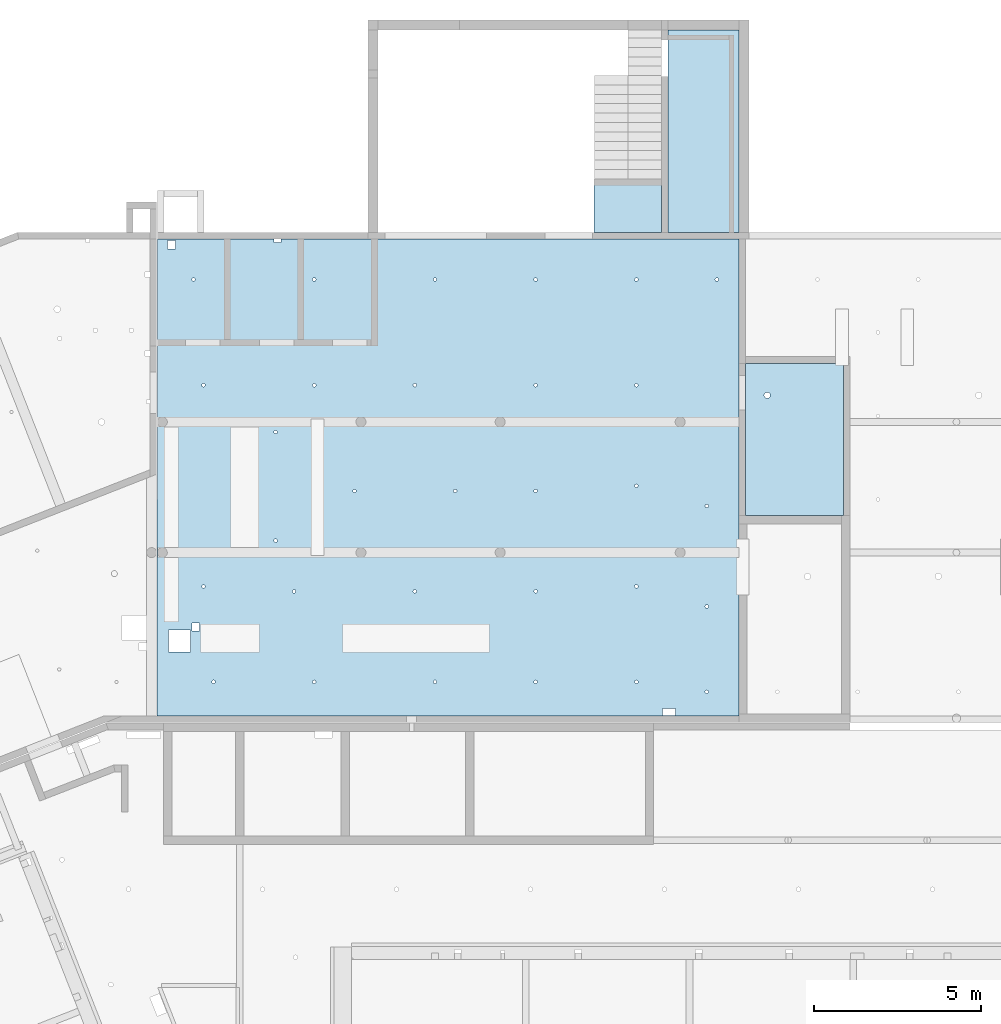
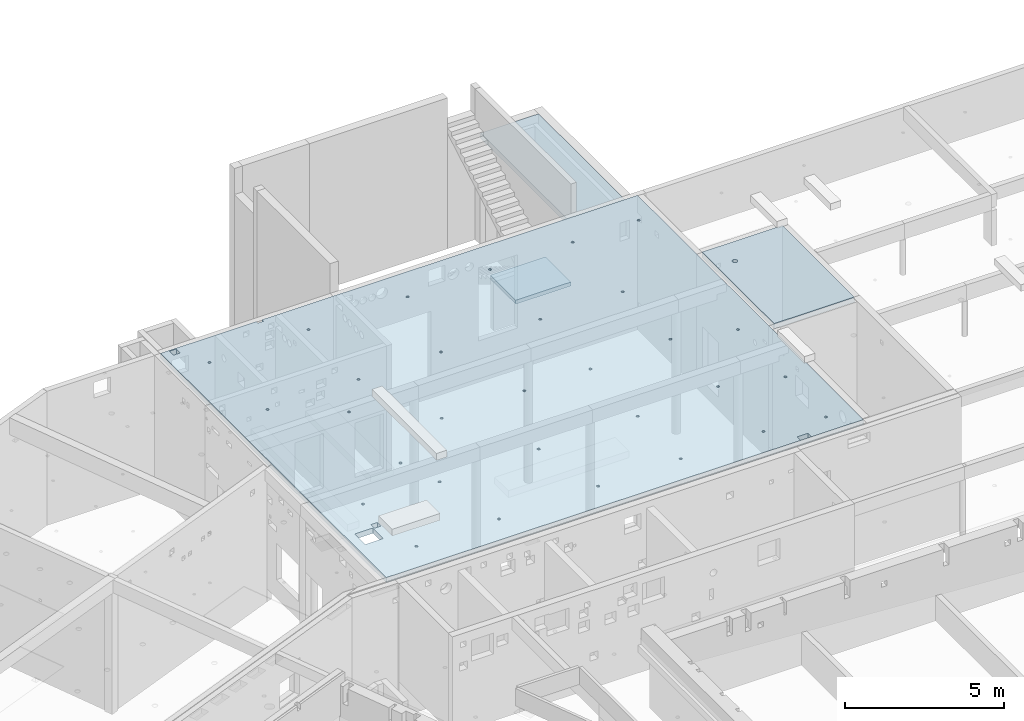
# One storey, part 11 of 28: 4 slabs, 36 openings.
"""IFC2X3 building model written with IfcOpenShell, lengths in metres."""

from ifc_helpers import new_model, entity, si_unit, converted_unit, direction, frame, frame_2d, origin, origin_with_axes, origin_2d_with_axis, place, context, subcontext, project, spatial, polyline, rectangle, circle, outline, extrude, material, element, save


model = new_model("IFC2X3")

# Units and contexts
model_context = context("Model", 3, precision=1e-05, world=origin(), true_north=direction((-0.407059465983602, -0.913401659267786)))
body_context = subcontext(model_context, "Body", "Model", "MODEL_VIEW")
ifc_project = project(units=[si_unit("LENGTHUNIT", "METRE"), si_unit("AREAUNIT", "SQUARE_METRE"), si_unit("VOLUMEUNIT", "CUBIC_METRE"), si_unit("MASSUNIT", "GRAM", prefix="KILO"), converted_unit("PLANEANGLEUNIT", "DEGREE", entity("IfcPlaneAngleMeasure", 0.0174532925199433), si_unit("PLANEANGLEUNIT", "RADIAN"), dimensions=[0, 0, 0, 0, 0, 0, 0])], contexts=[model_context])

# Site, buildings, storey
site_placement = place(None, origin())
site = spatial("IfcSite", under=ifc_project, at=site_placement, Name="Site", CompositionType="ELEMENT")
building_1_placement = place(site_placement, origin())
building_1 = spatial("IfcBuilding", under=site, at=building_1_placement, Name="Site", CompositionType="COMPLEX")
building_2_placement = place(building_1_placement, origin())
building_2 = spatial("IfcBuilding", under=building_1, at=building_2_placement, Name="Bâtiments", CompositionType="ELEMENT")
storey_placement = place(building_2_placement, frame((0.0, 0.0, -5.3)))
storey = spatial("IfcBuildingStorey", under=building_2, at=storey_placement, Name="SOUS-SOL", CompositionType="ELEMENT", Elevation=-5.3)

# Slab
ifc_material_1 = material(Name="Dalle_BA")
slab_1_placement = place(storey_placement, frame((43.1296416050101, 9.41038730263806, 4.33)))
element("IfcSlab", 1, at=slab_1_placement, inside=storey, material=ifc_material_1, PredefinedType="FLOOR", context=body_context, shape_type="SweptSolid", body=[
    extrude(rectangle(XDim=6.03989682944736, YDim=2.11300244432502, at=frame_2d((1.05650122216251, -3.01994841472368), x_axis=(0.0, -1.0))), frame((0.0, 6.03989682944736, 0.0), z_axis=(0.0, 0.0, 1.0), x_axis=(1.0, 0.0, 0.0)), (0.0, 0.0, 1.0), 0.2),
])

# Slab, opening
ifc_material_2 = material(Name="Dalle_BA")
slab_2_placement = place(storey_placement, frame((45.4426440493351, 0.953810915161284, 4.98)))
slab_2 = element("IfcSlab", 2, at=slab_2_placement, inside=storey, material=ifc_material_2, PredefinedType="FLOOR", context=body_context, shape_type="SweptSolid", body=[
    extrude(rectangle(XDim=2.92205293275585, YDim=4.54465431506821, at=frame_2d((1.46102646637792, 2.27232715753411), x_axis=(1.0, -3.50158454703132e-16))), frame((7.27595761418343e-15, 1.02318153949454e-15, 0.0), z_axis=(0.0, 0.0, 1.0), x_axis=(1.0, 0.0, 0.0)), (0.0, 0.0, 1.0), 0.2),
])
opening_1_placement = place(slab_2_placement, frame((0.557089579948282, 3.50394477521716, 0.0)))
element("IfcOpeningElement", 3, at=opening_1_placement, cuts=slab_2, Name="Trémie dans dalle", ObjectType="Opening", context=body_context, shape_type="SweptSolid", body=[
    extrude(circle(Radius=0.0900000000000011, at=frame_2d((-1.45519152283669e-14, 9.09494701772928e-16), x_axis=(1.0, 0.0))), frame((0.0896285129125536, 0.089628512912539, 0.0), z_axis=(0.0, 0.0, 1.0), x_axis=(1.0, 0.0, 0.0)), (0.0, 0.0, 1.0), 0.2),
])

# Slab
ifc_material_3 = material(Name="Dalle_BA")
slab_3_placement = place(storey_placement, frame((40.9218887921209, 9.41038730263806, 2.38)))
element("IfcSlab", 4, at=slab_3_placement, inside=storey, material=ifc_material_3, PredefinedType="FLOOR", context=body_context, shape_type="SweptSolid", body=[
    extrude(rectangle(XDim=1.60006372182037, YDim=2.00775281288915, at=frame_2d((1.00387640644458, -0.800031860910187), x_axis=(0.0, -1.0))), frame((0.0, 1.60006372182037, 0.0), z_axis=(0.0, 0.0, 1.0), x_axis=(1.0, 0.0, 0.0)), (0.0, 0.0, 1.0), 0.15),
])

# Slab, openings
ifc_material_4 = material(Name="Béton")
slab_4_placement = place(storey_placement, frame((27.8816796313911, -5.01893030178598, 4.98)))
slab_4 = element("IfcSlab", 5, at=slab_4_placement, inside=storey, material=ifc_material_4, PredefinedType="FLOOR", context=body_context, shape_type="SweptSolid", body=[
    extrude(outline(polyline([(0.000964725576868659, 14.229317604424), (0.0, 3.74470359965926e-05), (17.3609648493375, 0.0), (17.360964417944, 14.229317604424), (0.000964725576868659, 14.229317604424)])), origin_with_axes(), (0.0, 0.0, 1.0), 0.2),
])
opening_2_placement = place(slab_4_placement, frame((1.63059088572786, 0.961528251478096, 0.0)))
element("IfcOpeningElement", 6, at=opening_2_placement, cuts=slab_4, Name="Trémie dans dalle", ObjectType="Opening", context=body_context, shape_type="SweptSolid", body=[
    extrude(circle(Radius=0.05, at=frame_2d((0.0, 9.09494701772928e-16), x_axis=(1.0, 0.0))), frame((0.0497936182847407, 0.0497936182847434, 0.0), z_axis=(0.0, 0.0, 1.0), x_axis=(1.0, 0.0, 0.0)), (0.0, 0.0, 1.0), 0.2),
])
opening_3_placement = place(slab_4_placement, frame((4.63559089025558, 0.961528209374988, 0.0)))
element("IfcOpeningElement", 7, at=opening_3_placement, cuts=slab_4, Name="Trémie dans dalle", ObjectType="Opening", context=body_context, shape_type="SweptSolid", body=[
    extrude(circle(Radius=0.05, at=frame_2d((-3.63797880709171e-15, 0.0), x_axis=(1.0, 0.0))), frame((0.0497936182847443, 0.0497936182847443, 0.0), z_axis=(0.0, 0.0, 1.0), x_axis=(1.0, 0.0, 0.0)), (0.0, 0.0, 1.0), 0.2),
])
opening_4_placement = place(slab_4_placement, frame((8.24159089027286, 0.961528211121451, 0.0)))
element("IfcOpeningElement", 8, at=opening_4_placement, cuts=slab_4, Name="Trémie dans dalle", ObjectType="Opening", context=body_context, shape_type="SweptSolid", body=[
    extrude(circle(Radius=0.05, at=origin_2d_with_axis()), frame((0.0497936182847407, 0.0497936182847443, 0.0), z_axis=(0.0, 0.0, 1.0), x_axis=(1.0, 0.0, 0.0)), (0.0, 0.0, 1.0), 0.2),
])
opening_5_placement = place(slab_4_placement, frame((11.2465908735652, 0.961528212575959, 0.0)))
element("IfcOpeningElement", 9, at=opening_5_placement, cuts=slab_4, Name="Trémie dans dalle", ObjectType="Opening", context=body_context, shape_type="SweptSolid", body=[
    extrude(circle(Radius=0.05, at=frame_2d((-7.27595761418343e-15, -1.36424205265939e-15), x_axis=(1.0, 0.0))), frame((0.0497936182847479, 0.0497936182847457, 0.0), z_axis=(0.0, 0.0, 1.0), x_axis=(1.0, 0.0, 0.0)), (0.0, 0.0, 1.0), 0.2),
])
opening_6_placement = place(slab_4_placement, frame((14.2515908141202, 0.961528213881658, 0.0)))
element("IfcOpeningElement", 10, at=opening_6_placement, cuts=slab_4, Name="Trémie dans dalle", ObjectType="Opening", context=body_context, shape_type="SweptSolid", body=[
    extrude(circle(Radius=0.05, at=origin_2d_with_axis()), frame((0.0497936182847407, 0.0497936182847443, 0.0), z_axis=(0.0, 0.0, 1.0), x_axis=(1.0, 0.0, 0.0)), (0.0, 0.0, 1.0), 0.2),
])
opening_7_placement = place(slab_4_placement, frame((16.3549708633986, 0.663520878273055, 0.0)))
element("IfcOpeningElement", 11, at=opening_7_placement, cuts=slab_4, Name="Trémie dans dalle", ObjectType="Opening", context=body_context, shape_type="SweptSolid", body=[
    extrude(circle(Radius=0.05, at=frame_2d((1.45519152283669e-14, 9.09494701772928e-16), x_axis=(1.0, 0.0))), frame((0.0497936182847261, 0.0497936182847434, 0.0), z_axis=(0.0, 0.0, 1.0), x_axis=(1.0, 0.0, 0.0)), (0.0, 0.0, 1.0), 0.2),
])
opening_8_placement = place(slab_4_placement, frame((16.3549709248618, 3.2112773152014, 0.0)))
element("IfcOpeningElement", 12, at=opening_8_placement, cuts=slab_4, Name="Trémie dans dalle", ObjectType="Opening", context=body_context, shape_type="SweptSolid", body=[
    extrude(circle(Radius=0.05, at=frame_2d((-7.27595761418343e-15, -4.54747350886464e-16), x_axis=(1.0, 0.0))), frame((0.0497936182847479, 0.0497936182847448, 0.0), z_axis=(0.0, 0.0, 1.0), x_axis=(1.0, 0.0, 0.0)), (0.0, 0.0, 1.0), 0.2),
])
opening_9_placement = place(slab_4_placement, frame((16.3549708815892, 6.21152087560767, 0.0)))
element("IfcOpeningElement", 13, at=opening_9_placement, cuts=slab_4, Name="Trémie dans dalle", ObjectType="Opening", context=body_context, shape_type="SweptSolid", body=[
    extrude(circle(Radius=0.05, at=frame_2d((-7.27595761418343e-15, 4.54747350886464e-16), x_axis=(1.0, 0.0))), frame((0.0497936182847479, 0.0497936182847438, 0.0), z_axis=(0.0, 0.0, 1.0), x_axis=(1.0, 0.0, 0.0)), (0.0, 0.0, 1.0), 0.2),
])
opening_10_placement = place(slab_4_placement, frame((14.2515152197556, 3.81151284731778, 0.0)))
element("IfcOpeningElement", 14, at=opening_10_placement, cuts=slab_4, Name="Trémie dans dalle", ObjectType="Opening", context=body_context, shape_type="SweptSolid", body=[
    extrude(circle(Radius=0.05, at=frame_2d((-7.27595761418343e-15, 0.0), x_axis=(1.0, 0.0))), frame((0.0497936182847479, 0.0497936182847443, 0.0), z_axis=(0.0, 0.0, 1.0), x_axis=(1.0, 0.0, 0.0)), (0.0, 0.0, 1.0), 0.2),
])
opening_11_placement = place(slab_4_placement, frame((11.2465799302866, 3.66452820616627, 0.0)))
element("IfcOpeningElement", 15, at=opening_11_placement, cuts=slab_4, Name="Trémie dans dalle", ObjectType="Opening", context=body_context, shape_type="SweptSolid", body=[
    extrude(circle(Radius=0.05, at=frame_2d((7.27595761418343e-15, 0.0), x_axis=(1.0, 0.0))), frame((0.0497936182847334, 0.0497936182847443, 0.0), z_axis=(0.0, 0.0, 1.0), x_axis=(1.0, 0.0, 0.0)), (0.0, 0.0, 1.0), 0.2),
])
opening_12_placement = place(slab_4_placement, frame((7.64057992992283, 3.66452877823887, 0.0)))
element("IfcOpeningElement", 16, at=opening_12_placement, cuts=slab_4, Name="Trémie dans dalle", ObjectType="Opening", context=body_context, shape_type="SweptSolid", body=[
    extrude(circle(Radius=0.05, at=frame_2d((0.0, -4.54747350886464e-16), x_axis=(1.0, 0.0))), frame((0.0497936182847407, 0.0497936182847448, 0.0), z_axis=(0.0, 0.0, 1.0), x_axis=(1.0, 0.0, 0.0)), (0.0, 0.0, 1.0), 0.2),
])
opening_13_placement = place(slab_4_placement, frame((4.03457993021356, 3.66452922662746, 0.0)))
element("IfcOpeningElement", 17, at=opening_13_placement, cuts=slab_4, Name="Trémie dans dalle", ObjectType="Opening", context=body_context, shape_type="SweptSolid", body=[
    extrude(circle(Radius=0.05, at=frame_2d((-1.09139364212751e-14, 0.0), x_axis=(1.0, 0.0))), frame((0.0497936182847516, 0.0497936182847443, 0.0), z_axis=(0.0, 0.0, 1.0), x_axis=(1.0, 0.0, 0.0)), (0.0, 0.0, 1.0), 0.2),
])
opening_14_placement = place(slab_4_placement, frame((1.33016655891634, 3.81152821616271, 0.0)))
element("IfcOpeningElement", 18, at=opening_14_placement, cuts=slab_4, Name="Trémie dans dalle", ObjectType="Opening", context=body_context, shape_type="SweptSolid", body=[
    extrude(circle(Radius=0.05, at=frame_2d((7.27595761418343e-15, 0.0), x_axis=(1.0, 0.0))), frame((0.0497936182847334, 0.0497936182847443, 0.0), z_axis=(0.0, 0.0, 1.0), x_axis=(1.0, 0.0, 0.0)), (0.0, 0.0, 1.0), 0.2),
])
opening_15_placement = place(slab_4_placement, frame((3.48404348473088, 5.17723359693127, 0.0)))
element("IfcOpeningElement", 19, at=opening_15_placement, cuts=slab_4, Name="Trémie dans dalle", ObjectType="Opening", context=body_context, shape_type="SweptSolid", body=[
    extrude(circle(Radius=0.05, at=frame_2d((1.09139364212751e-14, 0.0), x_axis=(1.0, 0.0))), frame((0.0497936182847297, 0.0497936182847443, 0.0), z_axis=(0.0, 0.0, 1.0), x_axis=(1.0, 0.0, 0.0)), (0.0, 0.0, 1.0), 0.2),
])
opening_16_placement = place(slab_4_placement, frame((3.48404342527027, 8.41957968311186, 0.0)))
element("IfcOpeningElement", 20, at=opening_16_placement, cuts=slab_4, Name="Trémie dans dalle", ObjectType="Opening", context=body_context, shape_type="SweptSolid", body=[
    extrude(circle(Radius=0.05, at=frame_2d((-7.27595761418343e-15, 1.36424205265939e-15), x_axis=(1.0, 0.0))), frame((0.0497936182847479, 0.0497936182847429, 0.0), z_axis=(0.0, 0.0, 1.0), x_axis=(1.0, 0.0, 0.0)), (0.0, 0.0, 1.0), 0.2),
])
opening_17_placement = place(slab_4_placement, frame((5.83759088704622, 6.66031036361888, 0.0)))
element("IfcOpeningElement", 21, at=opening_17_placement, cuts=slab_4, Name="Trémie dans dalle", ObjectType="Opening", context=body_context, shape_type="SweptSolid", body=[
    extrude(circle(Radius=0.05, at=frame_2d((-1.45519152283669e-14, -4.54747350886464e-16), x_axis=(1.0, 0.0))), frame((0.0497936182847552, 0.0497936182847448, 0.0), z_axis=(0.0, 0.0, 1.0), x_axis=(1.0, 0.0, 0.0)), (0.0, 0.0, 1.0), 0.2),
])
opening_18_placement = place(slab_4_placement, frame((8.84259087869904, 6.66031037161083, 0.0)))
element("IfcOpeningElement", 22, at=opening_18_placement, cuts=slab_4, Name="Trémie dans dalle", ObjectType="Opening", context=body_context, shape_type="SweptSolid", body=[
    extrude(circle(Radius=0.05, at=frame_2d((7.27595761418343e-15, -4.54747350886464e-16), x_axis=(1.0, 0.0))), frame((0.0497936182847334, 0.0497936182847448, 0.0), z_axis=(0.0, 0.0, 1.0), x_axis=(1.0, 0.0, 0.0)), (0.0, 0.0, 1.0), 0.2),
])
opening_19_placement = place(slab_4_placement, frame((11.2465908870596, 6.66031039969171, 0.0)))
element("IfcOpeningElement", 23, at=opening_19_placement, cuts=slab_4, Name="Trémie dans dalle", ObjectType="Opening", context=body_context, shape_type="SweptSolid", body=[
    extrude(circle(Radius=0.05, at=frame_2d((-7.27595761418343e-15, -4.54747350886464e-16), x_axis=(1.0, 0.0))), frame((0.0497936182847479, 0.0497936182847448, 0.0), z_axis=(0.0, 0.0, 1.0), x_axis=(1.0, 0.0, 0.0)), (0.0, 0.0, 1.0), 0.2),
])
opening_20_placement = place(slab_4_placement, frame((14.2515308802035, 6.81252822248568, 0.0)))
element("IfcOpeningElement", 24, at=opening_20_placement, cuts=slab_4, Name="Trémie dans dalle", ObjectType="Opening", context=body_context, shape_type="SweptSolid", body=[
    extrude(circle(Radius=0.05, at=frame_2d((7.27595761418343e-15, 0.0), x_axis=(1.0, 0.0))), frame((0.0497936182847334, 0.0497936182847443, 0.0), z_axis=(0.0, 0.0, 1.0), x_axis=(1.0, 0.0, 0.0)), (0.0, 0.0, 1.0), 0.2),
])
opening_21_placement = place(slab_4_placement, frame((7.64043929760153, 9.81953605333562, 0.0)))
element("IfcOpeningElement", 25, at=opening_21_placement, cuts=slab_4, Name="Trémie dans dalle", ObjectType="Opening", context=body_context, shape_type="SweptSolid", body=[
    extrude(circle(Radius=0.05, at=frame_2d((7.27595761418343e-15, 0.0), x_axis=(1.0, 0.0))), frame((0.0497936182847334, 0.0497936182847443, 0.0), z_axis=(0.0, 0.0, 1.0), x_axis=(1.0, 0.0, 0.0)), (0.0, 0.0, 1.0), 0.2),
])
opening_22_placement = place(slab_4_placement, frame((1.33013295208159, 9.81953661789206, 0.0)))
element("IfcOpeningElement", 26, at=opening_22_placement, cuts=slab_4, Name="Trémie dans dalle", ObjectType="Opening", context=body_context, shape_type="SweptSolid", body=[
    extrude(circle(Radius=0.05, at=frame_2d((7.27595761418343e-15, -1.81898940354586e-15), x_axis=(1.0, 0.0))), frame((0.0497936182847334, 0.0497936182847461, 0.0), z_axis=(0.0, 0.0, 1.0), x_axis=(1.0, 0.0, 0.0)), (0.0, 0.0, 1.0), 0.2),
])
opening_23_placement = place(slab_4_placement, frame((14.2515294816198, 9.81852822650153, 0.0)))
element("IfcOpeningElement", 27, at=opening_23_placement, cuts=slab_4, Name="Trémie dans dalle", ObjectType="Opening", context=body_context, shape_type="SweptSolid", body=[
    extrude(circle(Radius=0.05, at=frame_2d((-7.27595761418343e-15, -1.81898940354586e-15), x_axis=(1.0, 0.0))), frame((0.0497936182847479, 0.0497936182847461, 0.0), z_axis=(0.0, 0.0, 1.0), x_axis=(1.0, 0.0, 0.0)), (0.0, 0.0, 1.0), 0.2),
])
opening_24_placement = place(slab_4_placement, frame((11.246529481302, 9.81853066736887, 0.0)))
element("IfcOpeningElement", 28, at=opening_24_placement, cuts=slab_4, Name="Trémie dans dalle", ObjectType="Opening", context=body_context, shape_type="SweptSolid", body=[
    extrude(circle(Radius=0.05, at=frame_2d((0.0, 1.81898940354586e-15), x_axis=(1.0, 0.0))), frame((0.0497936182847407, 0.0497936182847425, 0.0), z_axis=(0.0, 0.0, 1.0), x_axis=(1.0, 0.0, 0.0)), (0.0, 0.0, 1.0), 0.2),
])
opening_25_placement = place(slab_4_placement, frame((4.63555482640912, 9.81852949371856, 0.0)))
element("IfcOpeningElement", 29, at=opening_25_placement, cuts=slab_4, Name="Trémie dans dalle", ObjectType="Opening", context=body_context, shape_type="SweptSolid", body=[
    extrude(circle(Radius=0.05, at=frame_2d((-1.09139364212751e-14, 0.0), x_axis=(1.0, 0.0))), frame((0.0497936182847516, 0.0497936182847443, 0.0), z_axis=(0.0, 0.0, 1.0), x_axis=(1.0, 0.0, 0.0)), (0.0, 0.0, 1.0), 0.2),
])
opening_26_placement = place(slab_4_placement, frame((1.02973317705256, 12.9725275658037, 0.0)))
element("IfcOpeningElement", 30, at=opening_26_placement, cuts=slab_4, Name="Trémie dans dalle", ObjectType="Opening", context=body_context, shape_type="SweptSolid", body=[
    extrude(circle(Radius=0.05, at=frame_2d((0.0, -1.81898940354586e-15), x_axis=(1.0, 0.0))), frame((0.0497936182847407, 0.0497936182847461, 0.0), z_axis=(0.0, 0.0, 1.0), x_axis=(1.0, 0.0, 0.0)), (0.0, 0.0, 1.0), 0.2),
])
opening_27_placement = place(slab_4_placement, frame((4.63555605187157, 12.972525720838, 0.0)))
element("IfcOpeningElement", 31, at=opening_27_placement, cuts=slab_4, Name="Trémie dans dalle", ObjectType="Opening", context=body_context, shape_type="SweptSolid", body=[
    extrude(circle(Radius=0.05, at=frame_2d((-3.63797880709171e-15, 0.0), x_axis=(1.0, 0.0))), frame((0.0497936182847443, 0.0497936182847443, 0.0), z_axis=(0.0, 0.0, 1.0), x_axis=(1.0, 0.0, 0.0)), (0.0, 0.0, 1.0), 0.2),
])
opening_28_placement = place(slab_4_placement, frame((8.24153070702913, 12.972526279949, 0.0)))
element("IfcOpeningElement", 32, at=opening_28_placement, cuts=slab_4, Name="Trémie dans dalle", ObjectType="Opening", context=body_context, shape_type="SweptSolid", body=[
    extrude(circle(Radius=0.05, at=origin_2d_with_axis()), frame((0.0497936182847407, 0.0497936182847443, 0.0), z_axis=(0.0, 0.0, 1.0), x_axis=(1.0, 0.0, 0.0)), (0.0, 0.0, 1.0), 0.2),
])
opening_29_placement = place(slab_4_placement, frame((11.2465307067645, 12.9725268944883, 0.0)))
element("IfcOpeningElement", 33, at=opening_29_placement, cuts=slab_4, Name="Trémie dans dalle", ObjectType="Opening", context=body_context, shape_type="SweptSolid", body=[
    extrude(circle(Radius=0.05, at=frame_2d((1.45519152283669e-14, -1.81898940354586e-15), x_axis=(1.0, 0.0))), frame((0.0497936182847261, 0.0497936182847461, 0.0), z_axis=(0.0, 0.0, 1.0), x_axis=(1.0, 0.0, 0.0)), (0.0, 0.0, 1.0), 0.2),
])
opening_30_placement = place(slab_4_placement, frame((14.2515307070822, 12.972524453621, 0.0)))
element("IfcOpeningElement", 34, at=opening_30_placement, cuts=slab_4, Name="Trémie dans dalle", ObjectType="Opening", context=body_context, shape_type="SweptSolid", body=[
    extrude(circle(Radius=0.05, at=frame_2d((7.27595761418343e-15, 1.81898940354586e-15), x_axis=(1.0, 0.0))), frame((0.0497936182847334, 0.0497936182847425, 0.0), z_axis=(0.0, 0.0, 1.0), x_axis=(1.0, 0.0, 0.0)), (0.0, 0.0, 1.0), 0.2),
])
opening_31_placement = place(slab_4_placement, frame((16.6553317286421, 12.9725198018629, 0.0)))
element("IfcOpeningElement", 35, at=opening_31_placement, cuts=slab_4, Name="Trémie dans dalle", ObjectType="Opening", context=body_context, shape_type="SweptSolid", body=[
    extrude(circle(Radius=0.05, at=frame_2d((0.0, -4.54747350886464e-15), x_axis=(1.0, 0.0))), frame((0.0497936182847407, 0.0497936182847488, 0.0), z_axis=(0.0, 0.0, 1.0), x_axis=(1.0, 0.0, 0.0)), (0.0, 0.0, 1.0), 0.2),
])
opening_32_placement = place(slab_4_placement, frame((0.301000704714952, 13.9323678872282, 0.0)))
element("IfcOpeningElement", 36, at=opening_32_placement, cuts=slab_4, Name="Trémie dans dalle", ObjectType="Opening", context=body_context, shape_type="SweptSolid", body=[
    extrude(rectangle(XDim=0.25, YDim=0.25, at=frame_2d((7.27595761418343e-15, 0.0), x_axis=(0.0, -1.0))), frame((0.124999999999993, 0.125, 0.0), z_axis=(0.0, 0.0, 1.0), x_axis=(1.0, 0.0, 0.0)), (0.0, 0.0, 1.0), 0.2),
])
opening_33_placement = place(slab_4_placement, frame((3.48960928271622, 14.1293537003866, 0.0)))
element("IfcOpeningElement", 37, at=opening_33_placement, cuts=slab_4, Name="Trémie dans dalle", ObjectType="Opening", context=body_context, shape_type="SweptSolid", body=[
    extrude(rectangle(XDim=0.1, YDim=0.2, at=frame_2d((-3.63797880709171e-15, 0.0), x_axis=(0.0, -1.0))), frame((0.100000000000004, 0.05, 0.0), z_axis=(0.0, 0.0, 1.0), x_axis=(1.0, 0.0, 0.0)), (0.0, 0.0, 1.0), 0.2),
])
opening_34_placement = place(slab_4_placement, frame((1.0379462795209, 2.53315035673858, 0.0)))
element("IfcOpeningElement", 38, at=opening_34_placement, cuts=slab_4, Name="Trémie dans dalle", ObjectType="Opening", context=body_context, shape_type="SweptSolid", body=[
    extrude(rectangle(XDim=0.23, YDim=0.23, at=frame_2d((0.0, 0.0), x_axis=(0.0, -1.0))), frame((0.115, 0.115, 0.0), z_axis=(0.0, 0.0, 1.0), x_axis=(1.0, 0.0, 0.0)), (0.0, 0.0, 1.0), 0.2),
])
opening_35_placement = place(slab_4_placement, frame((15.0755741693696, 0.000493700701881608, 0.0)))
element("IfcOpeningElement", 39, at=opening_35_placement, cuts=slab_4, Name="Trémie dans dalle", ObjectType="Opening", context=body_context, shape_type="SweptSolid", body=[
    extrude(rectangle(XDim=0.22, YDim=0.4, at=frame_2d((7.27595761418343e-15, 0.0), x_axis=(0.0, -1.0))), frame((0.199999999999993, 0.11, 0.0), z_axis=(0.0, 0.0, 1.0), x_axis=(1.0, 0.0, 0.0)), (0.0, 0.0, 1.0), 0.2),
])
opening_36_placement = place(slab_4_placement, frame((0.334902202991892, 1.90711856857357, 0.0)))
element("IfcOpeningElement", 40, at=opening_36_placement, cuts=slab_4, Name="Trémie dans dalle", ObjectType="Opening", context=body_context, shape_type="SweptSolid", body=[
    extrude(rectangle(XDim=0.660000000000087, YDim=0.659999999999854, at=frame_2d((3.63797880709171e-15, 0.0), x_axis=(0.0, -1.0))), frame((0.329999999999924, 0.330000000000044, 0.0), z_axis=(0.0, 0.0, 1.0), x_axis=(1.0, 0.0, 0.0)), (0.0, 0.0, 1.0), 0.2),
])

save(model, "model.ifc")
